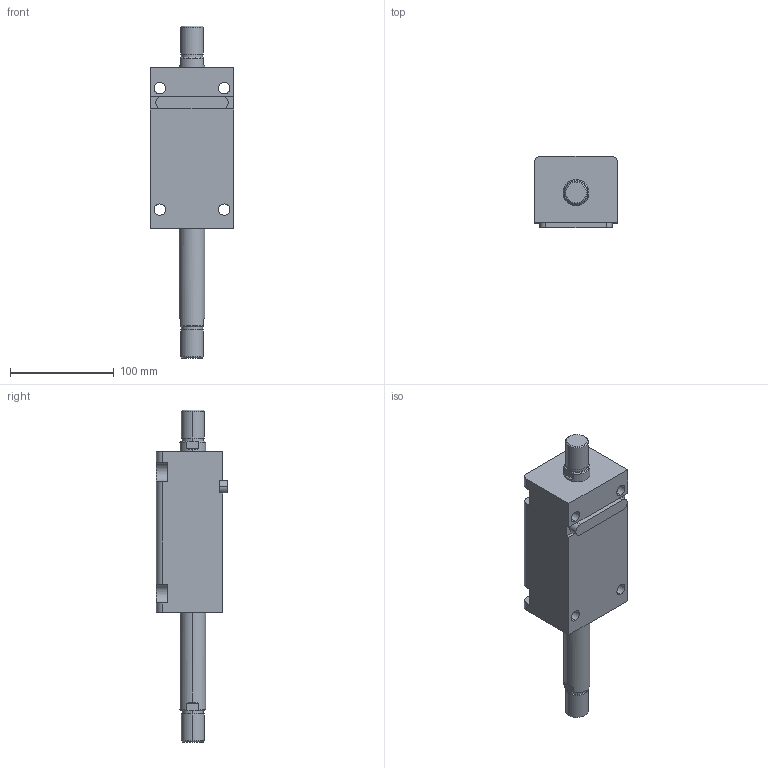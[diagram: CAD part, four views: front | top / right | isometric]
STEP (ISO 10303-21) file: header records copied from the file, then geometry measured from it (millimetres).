
FILE_DESCRIPTION (( 'STEP AP203' ), '1' );
FILE_NAME ('HTB-LW40-90W.STEP', '2019-10-09T07:59:18', ( '微软用户' ), ( '微软中国' ), 'SwSTEP 2.0', 'SolidWorks 2012', '' );
FILE_SCHEMA (( 'CONFIG_CONTROL_DESIGN' ));
Length unit declared in the file: millimetre
Products named in the file (4): HTB-LW40-90W; HTB-LA40-瑩; HTB-LW40-90W活塞杆; HTB-LW40-90掛极
Assembly tree (3 placements, depth 2):
  HTB-LW40-90W
    HTB-LW40-90掛极
    HTB-LW40-90W活塞杆
    HTB-LA40-瑩
Bounding box: 80 x 68.5 x 320 mm (x, y, z)
Volume: 768253.9 mm3; surface area: 111325.9 mm2
Topology: 3 solids, 3 shells, 113 faces, 273 edges, 178 vertices
Faces by surface type: plane 48, cylinder 45, cone 12, torus 8
Entity records: 3779 total; most frequent: CARTESIAN_POINT 622, DIRECTION 617, ORIENTED_EDGE 546, EDGE_CURVE 273, AXIS2_PLACEMENT_3D 241, VERTEX_POINT 178, EDGE_LOOP 135, LINE 135
